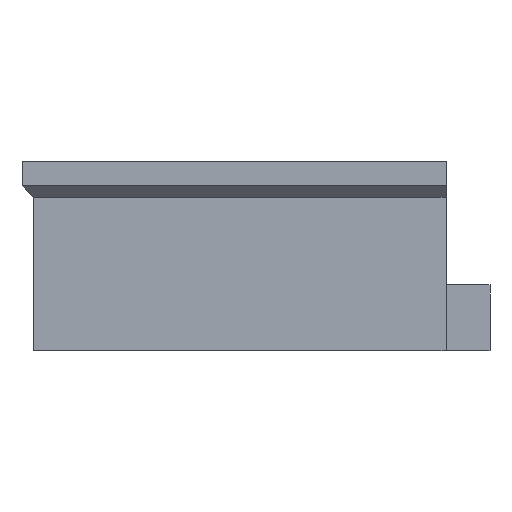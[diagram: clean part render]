
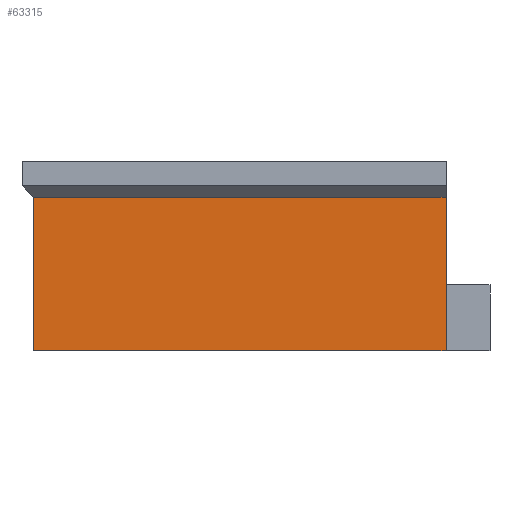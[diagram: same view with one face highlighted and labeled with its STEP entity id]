
A CAD part, front view. The second image highlights one B-rep face of the part: STEP entity #63315.
In plain terms, the highlighted planar face has unit normal (0, -1, 0).
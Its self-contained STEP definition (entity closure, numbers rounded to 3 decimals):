
#818 = PLANE('',#819);
#819 = AXIS2_PLACEMENT_3D('',#820,#821,#822);
#820 = CARTESIAN_POINT('',(0.,0.,0.));
#821 = DIRECTION('',(0.,0.,1.));
#822 = DIRECTION('',(1.,0.,-0.));
#953 = PLANE('',#954);
#954 = AXIS2_PLACEMENT_3D('',#955,#956,#957);
#955 = CARTESIAN_POINT('',(-192.,152.,2.));
#956 = DIRECTION('',(1.,0.,-0.));
#957 = DIRECTION('',(0.,-1.,0.));
#1002 = VERTEX_POINT('',#1003);
#1003 = CARTESIAN_POINT('',(-192.,-176.,27.9));
#1038 = B_SPLINE_SURFACE_WITH_KNOTS('',1,1,(
    (#1039,#1040)
    ,(#1041,#1042
    )),.UNSPECIFIED.,.F.,.F.,.F.,(2,2),(2,2),(0.,388.2),(0.,1.),
  .PIECEWISE_BEZIER_KNOTS.);
#1039 = CARTESIAN_POINT('',(-192.,-176.,27.9));
#1040 = CARTESIAN_POINT('',(-194.1,-178.1,30.));
#1041 = CARTESIAN_POINT('',(192.,-176.,27.9));
#1042 = CARTESIAN_POINT('',(194.1,-178.1,30.));
#1074 = EDGE_CURVE('',#1002,#1075,#1077,.T.);
#1075 = VERTEX_POINT('',#1076);
#1076 = CARTESIAN_POINT('',(-117.,-176.,27.9));
#1077 = SURFACE_CURVE('',#1078,(#1082,#1088),.PCURVE_S1.);
#1078 = LINE('',#1079,#1080);
#1079 = CARTESIAN_POINT('',(-192.,-176.,27.9));
#1080 = VECTOR('',#1081,1.);
#1081 = DIRECTION('',(1.,0.,0.));
#1082 = PCURVE('',#1038,#1083);
#1083 = DEFINITIONAL_REPRESENTATION('',(#1084),#1087);
#1084 = B_SPLINE_CURVE_WITH_KNOTS('',1,(#1085,#1086),.UNSPECIFIED.,.F.,
  .F.,(2,2),(0.,384.),.PIECEWISE_BEZIER_KNOTS.);
#1085 = CARTESIAN_POINT('',(0.,0.));
#1086 = CARTESIAN_POINT('',(388.2,0.));
#1087 = ( GEOMETRIC_REPRESENTATION_CONTEXT(2) 
PARAMETRIC_REPRESENTATION_CONTEXT() REPRESENTATION_CONTEXT('2D SPACE',''
  ) );
#1088 = PCURVE('',#1089,#1094);
#1089 = PLANE('',#1090);
#1090 = AXIS2_PLACEMENT_3D('',#1091,#1092,#1093);
#1091 = CARTESIAN_POINT('',(-192.,-176.,2.));
#1092 = DIRECTION('',(0.,1.,0.));
#1093 = DIRECTION('',(1.,0.,0.));
#1094 = DEFINITIONAL_REPRESENTATION('',(#1095),#1099);
#1095 = LINE('',#1096,#1097);
#1096 = CARTESIAN_POINT('',(0.,-25.9));
#1097 = VECTOR('',#1098,1.);
#1098 = DIRECTION('',(1.,0.));
#1099 = ( GEOMETRIC_REPRESENTATION_CONTEXT(2) 
PARAMETRIC_REPRESENTATION_CONTEXT() REPRESENTATION_CONTEXT('2D SPACE',''
  ) );
#1121 = PLANE('',#1122);
#1122 = AXIS2_PLACEMENT_3D('',#1123,#1124,#1125);
#1123 = CARTESIAN_POINT('',(-117.,-200.,1.));
#1124 = DIRECTION('',(1.,0.,-0.));
#1125 = DIRECTION('',(0.,0.,1.));
#1394 = EDGE_CURVE('',#1395,#1075,#1397,.T.);
#1395 = VERTEX_POINT('',#1396);
#1396 = CARTESIAN_POINT('',(-117.,-176.,0.));
#1397 = SURFACE_CURVE('',#1398,(#1402,#1409),.PCURVE_S1.);
#1398 = LINE('',#1399,#1400);
#1399 = CARTESIAN_POINT('',(-117.,-176.,0.));
#1400 = VECTOR('',#1401,1.);
#1401 = DIRECTION('',(0.,0.,1.));
#1402 = PCURVE('',#1121,#1403);
#1403 = DEFINITIONAL_REPRESENTATION('',(#1404),#1408);
#1404 = LINE('',#1405,#1406);
#1405 = CARTESIAN_POINT('',(-1.,-24.));
#1406 = VECTOR('',#1407,1.);
#1407 = DIRECTION('',(1.,0.));
#1408 = ( GEOMETRIC_REPRESENTATION_CONTEXT(2) 
PARAMETRIC_REPRESENTATION_CONTEXT() REPRESENTATION_CONTEXT('2D SPACE',''
  ) );
#1409 = PCURVE('',#1089,#1410);
#1410 = DEFINITIONAL_REPRESENTATION('',(#1411),#1415);
#1411 = LINE('',#1412,#1413);
#1412 = CARTESIAN_POINT('',(75.,2.));
#1413 = VECTOR('',#1414,1.);
#1414 = DIRECTION('',(0.,-1.));
#1415 = ( GEOMETRIC_REPRESENTATION_CONTEXT(2) 
PARAMETRIC_REPRESENTATION_CONTEXT() REPRESENTATION_CONTEXT('2D SPACE',''
  ) );
#63315 = ADVANCED_FACE('',(#63316),#1089,.F.);
#63316 = FACE_BOUND('',#63317,.F.);
#63317 = EDGE_LOOP('',(#63318,#63319,#63342,#63363));
#63318 = ORIENTED_EDGE('',*,*,#1394,.F.);
#63319 = ORIENTED_EDGE('',*,*,#63320,.F.);
#63320 = EDGE_CURVE('',#63321,#1395,#63323,.T.);
#63321 = VERTEX_POINT('',#63322);
#63322 = CARTESIAN_POINT('',(-192.,-176.,0.));
#63323 = SURFACE_CURVE('',#63324,(#63328,#63335),.PCURVE_S1.);
#63324 = LINE('',#63325,#63326);
#63325 = CARTESIAN_POINT('',(-96.,-176.,0.));
#63326 = VECTOR('',#63327,1.);
#63327 = DIRECTION('',(1.,0.,0.));
#63328 = PCURVE('',#1089,#63329);
#63329 = DEFINITIONAL_REPRESENTATION('',(#63330),#63334);
#63330 = LINE('',#63331,#63332);
#63331 = CARTESIAN_POINT('',(96.,2.));
#63332 = VECTOR('',#63333,1.);
#63333 = DIRECTION('',(1.,0.));
#63334 = ( GEOMETRIC_REPRESENTATION_CONTEXT(2) 
PARAMETRIC_REPRESENTATION_CONTEXT() REPRESENTATION_CONTEXT('2D SPACE',''
  ) );
#63335 = PCURVE('',#818,#63336);
#63336 = DEFINITIONAL_REPRESENTATION('',(#63337),#63341);
#63337 = LINE('',#63338,#63339);
#63338 = CARTESIAN_POINT('',(-96.,-176.));
#63339 = VECTOR('',#63340,1.);
#63340 = DIRECTION('',(1.,0.));
#63341 = ( GEOMETRIC_REPRESENTATION_CONTEXT(2) 
PARAMETRIC_REPRESENTATION_CONTEXT() REPRESENTATION_CONTEXT('2D SPACE',''
  ) );
#63342 = ORIENTED_EDGE('',*,*,#63343,.T.);
#63343 = EDGE_CURVE('',#63321,#1002,#63344,.T.);
#63344 = SURFACE_CURVE('',#63345,(#63349,#63356),.PCURVE_S1.);
#63345 = LINE('',#63346,#63347);
#63346 = CARTESIAN_POINT('',(-192.,-176.,0.));
#63347 = VECTOR('',#63348,1.);
#63348 = DIRECTION('',(0.,0.,1.));
#63349 = PCURVE('',#1089,#63350);
#63350 = DEFINITIONAL_REPRESENTATION('',(#63351),#63355);
#63351 = LINE('',#63352,#63353);
#63352 = CARTESIAN_POINT('',(0.,2.));
#63353 = VECTOR('',#63354,1.);
#63354 = DIRECTION('',(0.,-1.));
#63355 = ( GEOMETRIC_REPRESENTATION_CONTEXT(2) 
PARAMETRIC_REPRESENTATION_CONTEXT() REPRESENTATION_CONTEXT('2D SPACE',''
  ) );
#63356 = PCURVE('',#953,#63357);
#63357 = DEFINITIONAL_REPRESENTATION('',(#63358),#63362);
#63358 = LINE('',#63359,#63360);
#63359 = CARTESIAN_POINT('',(328.,2.));
#63360 = VECTOR('',#63361,1.);
#63361 = DIRECTION('',(0.,-1.));
#63362 = ( GEOMETRIC_REPRESENTATION_CONTEXT(2) 
PARAMETRIC_REPRESENTATION_CONTEXT() REPRESENTATION_CONTEXT('2D SPACE',''
  ) );
#63363 = ORIENTED_EDGE('',*,*,#1074,.T.);
